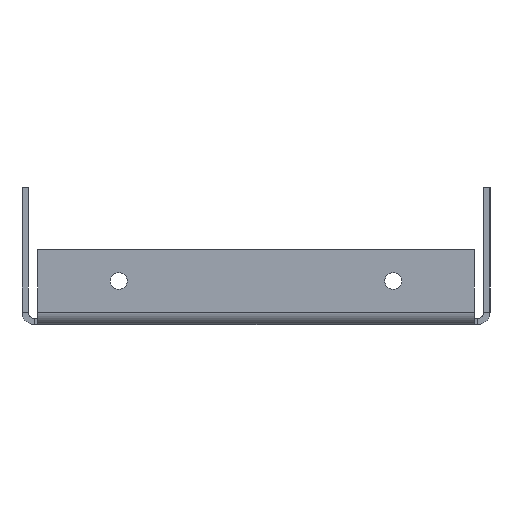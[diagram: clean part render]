
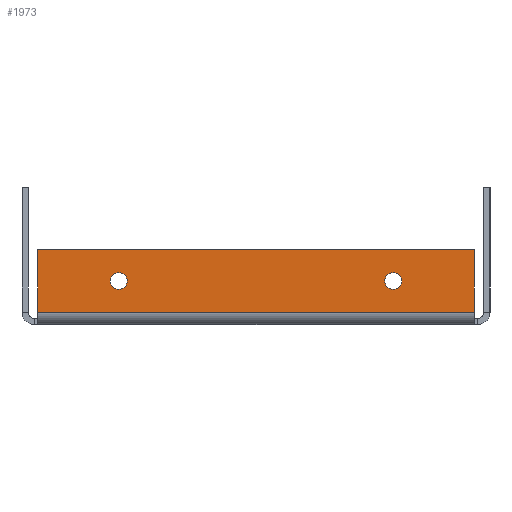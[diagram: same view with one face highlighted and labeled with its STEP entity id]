
A CAD part, left-side view. The second image highlights one B-rep face of the part: STEP entity #1973.
In plain terms, the highlighted planar face has unit normal (-1, 0, 0).
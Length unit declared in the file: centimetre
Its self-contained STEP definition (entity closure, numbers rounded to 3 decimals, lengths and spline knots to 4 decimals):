
#21=FACE_BOUND('',#327,.T.);
#22=FACE_BOUND('',#328,.T.);
#118=PLANE('',#2188);
#217=FACE_OUTER_BOUND('',#326,.T.);
#326=EDGE_LOOP('',(#1606,#1607,#1608,#1609));
#327=EDGE_LOOP('',(#1610));
#328=EDGE_LOOP('',(#1611));
#524=LINE('',#3197,#689);
#529=LINE('',#3210,#694);
#536=LINE('',#3228,#701);
#538=LINE('',#3231,#703);
#689=VECTOR('',#2646,1.);
#694=VECTOR('',#2657,0.14);
#701=VECTOR('',#2676,1.);
#703=VECTOR('',#2680,1.);
#761=CIRCLE('',#2023,0.135);
#763=CIRCLE('',#2026,0.135);
#867=VERTEX_POINT('',#2824);
#869=VERTEX_POINT('',#2830);
#989=VERTEX_POINT('',#3195);
#990=VERTEX_POINT('',#3196);
#995=VERTEX_POINT('',#3208);
#1000=VERTEX_POINT('',#3227);
#1039=EDGE_CURVE('',#867,#867,#761,.T.);
#1042=EDGE_CURVE('',#869,#869,#763,.T.);
#1224=EDGE_CURVE('',#989,#990,#524,.T.);
#1231=EDGE_CURVE('',#990,#995,#529,.T.);
#1240=EDGE_CURVE('',#1000,#989,#536,.T.);
#1242=EDGE_CURVE('',#995,#1000,#538,.T.);
#1606=ORIENTED_EDGE('',*,*,#1224,.T.);
#1607=ORIENTED_EDGE('',*,*,#1231,.T.);
#1608=ORIENTED_EDGE('',*,*,#1242,.T.);
#1609=ORIENTED_EDGE('',*,*,#1240,.T.);
#1610=ORIENTED_EDGE('',*,*,#1039,.T.);
#1611=ORIENTED_EDGE('',*,*,#1042,.T.);
#1973=ADVANCED_FACE('',(#217,#21,#22),#118,.T.);
#2023=AXIS2_PLACEMENT_3D('',#2825,#2243,#2244);
#2026=AXIS2_PLACEMENT_3D('',#2831,#2250,#2251);
#2188=AXIS2_PLACEMENT_3D('',#3234,#2684,#2685);
#2243=DIRECTION('center_axis',(1.,0.,0.));
#2244=DIRECTION('ref_axis',(0.,0.,-1.));
#2250=DIRECTION('center_axis',(1.,0.,0.));
#2251=DIRECTION('ref_axis',(0.,0.,-1.));
#2646=DIRECTION('',(0.,-1.,0.));
#2657=DIRECTION('',(0.,0.,1.));
#2676=DIRECTION('',(0.,0.,-1.));
#2680=DIRECTION('',(0.,1.,0.));
#2684=DIRECTION('center_axis',(-1.,0.,0.));
#2685=DIRECTION('ref_axis',(0.,0.,1.));
#2824=CARTESIAN_POINT('',(0.,-2.2,0.835));
#2825=CARTESIAN_POINT('Origin',(0.,-2.2,0.7));
#2830=CARTESIAN_POINT('',(0.,2.2,0.835));
#2831=CARTESIAN_POINT('Origin',(0.,2.2,0.7));
#3195=CARTESIAN_POINT('',(0.,3.5,0.2));
#3196=CARTESIAN_POINT('',(0.,-3.5,0.2));
#3197=CARTESIAN_POINT('',(0.,0.,0.2));
#3208=CARTESIAN_POINT('',(0.,-3.5,1.2));
#3210=CARTESIAN_POINT('',(0.,-3.5,-0.2398));
#3227=CARTESIAN_POINT('',(0.,3.5,1.2));
#3228=CARTESIAN_POINT('',(0.,3.5,0.2));
#3231=CARTESIAN_POINT('',(0.,3.5,1.2));
#3234=CARTESIAN_POINT('Origin',(0.,0.,0.59));
